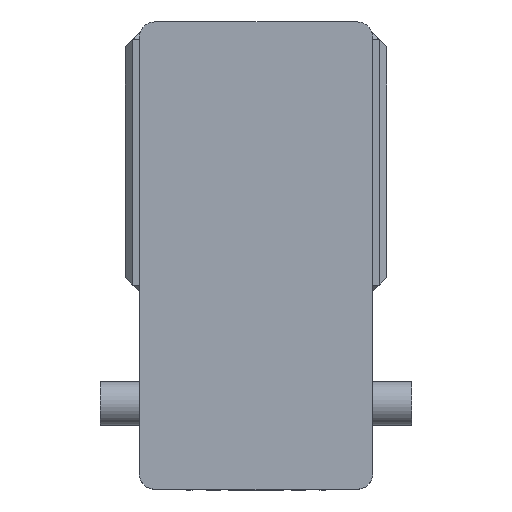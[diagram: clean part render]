
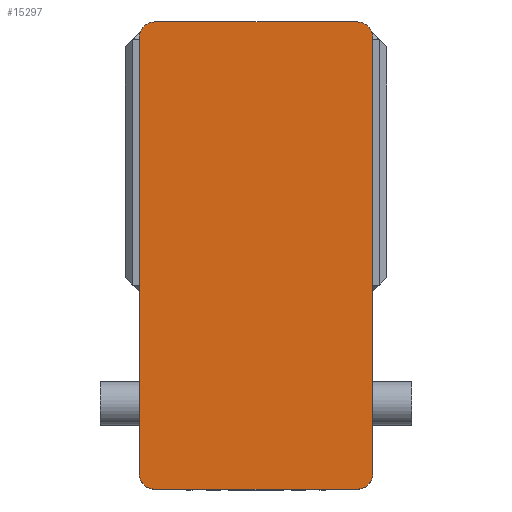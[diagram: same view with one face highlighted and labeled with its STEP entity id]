
A CAD part, left-side view. The second image highlights one B-rep face of the part: STEP entity #15297.
In plain terms, the highlighted planar face has unit normal (-1, 0, 0) as drawn and (0, 0, 1) by its records, which use the part's own axes.
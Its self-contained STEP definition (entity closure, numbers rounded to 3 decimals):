
#300 = EDGE_CURVE ( 'NONE', #3030, #15547, #722, .T. ) ;
#722 = CIRCLE ( 'NONE', #3749, 10. ) ;
#2424 = VERTEX_POINT ( 'NONE', #20420 ) ;
#2470 = CARTESIAN_POINT ( 'NONE',  ( 75., -140., 105. ) ) ;
#2633 = EDGE_CURVE ( 'NONE', #14105, #3030, #20006, .T. ) ;
#3030 = VERTEX_POINT ( 'NONE', #15166 ) ;
#3387 = VERTEX_POINT ( 'NONE', #12715 ) ;
#3403 = EDGE_CURVE ( 'NONE', #15547, #18525, #18419, .T. ) ;
#3489 = AXIS2_PLACEMENT_3D ( 'NONE', #10046, #10017, #9987 ) ;
#3720 = CARTESIAN_POINT ( 'NONE',  ( -65., -150., 105. ) ) ;
#3749 = AXIS2_PLACEMENT_3D ( 'NONE', #16511, #13889, #13611 ) ;
#3822 = AXIS2_PLACEMENT_3D ( 'NONE', #9959, #9910, #9895 ) ;
#3967 = AXIS2_PLACEMENT_3D ( 'NONE', #10209, #10201, #10183 ) ;
#6000 = CARTESIAN_POINT ( 'NONE',  ( 65., -150., 105. ) ) ;
#6375 = CARTESIAN_POINT ( 'NONE',  ( 65., 150., 105. ) ) ;
#6872 = ORIENTED_EDGE ( 'NONE', *, *, #7423, .T. ) ;
#6972 = EDGE_CURVE ( 'NONE', #2424, #3387, #10913, .T. ) ;
#7313 = EDGE_CURVE ( 'NONE', #10928, #9014, #10284, .T. ) ;
#7390 = EDGE_CURVE ( 'NONE', #9014, #14105, #10038, .T. ) ;
#7418 = EDGE_CURVE ( 'NONE', #18525, #2424, #9899, .T. ) ;
#7423 = EDGE_CURVE ( 'NONE', #3387, #10928, #9937, .T. ) ;
#9014 = VERTEX_POINT ( 'NONE', #6000 ) ;
#9770 = FACE_OUTER_BOUND ( 'NONE', #22912, .T. ) ;
#9895 = DIRECTION ( 'NONE',  ( 1., 0., 0. ) ) ;
#9899 = CIRCLE ( 'NONE', #3489, 10. ) ;
#9910 = DIRECTION ( 'NONE',  ( 0., 0., 1. ) ) ;
#9937 = CIRCLE ( 'NONE', #3822, 10. ) ;
#9959 = CARTESIAN_POINT ( 'NONE',  ( -65., -140., 105. ) ) ;
#9987 = DIRECTION ( 'NONE',  ( 1., 0., 0. ) ) ;
#10017 = DIRECTION ( 'NONE',  ( 0., 0., 1. ) ) ;
#10038 = CIRCLE ( 'NONE', #3967, 10. ) ;
#10046 = CARTESIAN_POINT ( 'NONE',  ( -65., 140., 105. ) ) ;
#10129 = VECTOR ( 'NONE', #11682, 1000. ) ;
#10183 = DIRECTION ( 'NONE',  ( 1., 0., 0. ) ) ;
#10201 = DIRECTION ( 'NONE',  ( 0., 0., 1. ) ) ;
#10209 = CARTESIAN_POINT ( 'NONE',  ( 65., -140., 105. ) ) ;
#10268 = CARTESIAN_POINT ( 'NONE',  ( -65., 150., 105. ) ) ;
#10284 = LINE ( 'NONE', #11762, #10129 ) ;
#10676 = DIRECTION ( 'NONE',  ( 1., 0., 0. ) ) ;
#10699 = DIRECTION ( 'NONE',  ( 0., 0., 1. ) ) ;
#10719 = CARTESIAN_POINT ( 'NONE',  ( 0., 0., 105. ) ) ;
#10841 = VECTOR ( 'NONE', #15001, 1000. ) ;
#10913 = LINE ( 'NONE', #15331, #10841 ) ;
#10928 = VERTEX_POINT ( 'NONE', #3720 ) ;
#10993 = ORIENTED_EDGE ( 'NONE', *, *, #7313, .T. ) ;
#11348 = PLANE ( 'NONE',  #12630 ) ;
#11663 = ORIENTED_EDGE ( 'NONE', *, *, #6972, .T. ) ;
#11682 = DIRECTION ( 'NONE',  ( 1., 0., 0. ) ) ;
#11762 = CARTESIAN_POINT ( 'NONE',  ( -75., -150., 105. ) ) ;
#11905 = ORIENTED_EDGE ( 'NONE', *, *, #300, .T. ) ;
#11943 = ORIENTED_EDGE ( 'NONE', *, *, #7390, .T. ) ;
#12182 = ORIENTED_EDGE ( 'NONE', *, *, #2633, .T. ) ;
#12573 = DIRECTION ( 'NONE',  ( -1., 0., 0. ) ) ;
#12619 = CARTESIAN_POINT ( 'NONE',  ( -75., 150., 105. ) ) ;
#12630 = AXIS2_PLACEMENT_3D ( 'NONE', #10719, #10699, #10676 ) ;
#12715 = CARTESIAN_POINT ( 'NONE',  ( -75., -140., 105. ) ) ;
#13611 = DIRECTION ( 'NONE',  ( 1., 0., 0. ) ) ;
#13889 = DIRECTION ( 'NONE',  ( 0., 0., 1. ) ) ;
#14105 = VERTEX_POINT ( 'NONE', #2470 ) ;
#15001 = DIRECTION ( 'NONE',  ( 0., -1., 0. ) ) ;
#15166 = CARTESIAN_POINT ( 'NONE',  ( 75., 140., 105. ) ) ;
#15297 = ADVANCED_FACE ( 'NONE', ( #9770 ), #11348, .T. ) ;
#15331 = CARTESIAN_POINT ( 'NONE',  ( -75., 150., 105. ) ) ;
#15547 = VERTEX_POINT ( 'NONE', #6375 ) ;
#16031 = ORIENTED_EDGE ( 'NONE', *, *, #3403, .T. ) ;
#16511 = CARTESIAN_POINT ( 'NONE',  ( 65., 140., 105. ) ) ;
#16792 = ORIENTED_EDGE ( 'NONE', *, *, #7418, .T. ) ;
#18377 = VECTOR ( 'NONE', #12573, 1000. ) ;
#18419 = LINE ( 'NONE', #12619, #18377 ) ;
#18525 = VERTEX_POINT ( 'NONE', #10268 ) ;
#19945 = VECTOR ( 'NONE', #21929, 1000. ) ;
#20006 = LINE ( 'NONE', #21952, #19945 ) ;
#20420 = CARTESIAN_POINT ( 'NONE',  ( -75., 140., 105. ) ) ;
#21929 = DIRECTION ( 'NONE',  ( 0., 1., 0. ) ) ;
#21952 = CARTESIAN_POINT ( 'NONE',  ( 75., 150., 105. ) ) ;
#22912 = EDGE_LOOP ( 'NONE', ( #10993, #11943, #12182, #11905, #16031, #16792, #11663, #6872 ) ) ;
